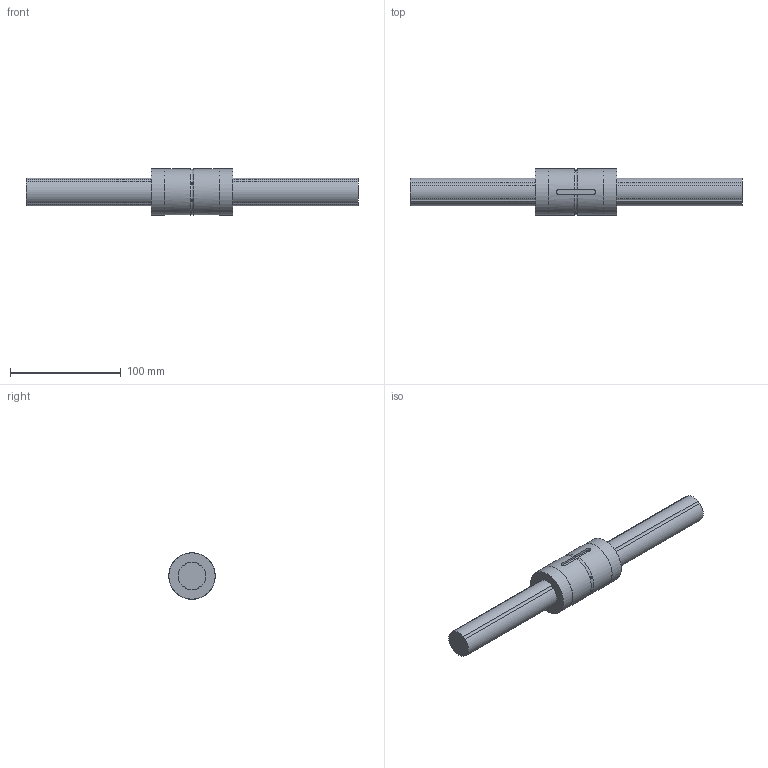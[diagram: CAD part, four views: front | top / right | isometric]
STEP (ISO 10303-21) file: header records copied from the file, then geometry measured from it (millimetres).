
FILE_DESCRIPTION((''),'2;1');
FILE_NAME('C:\Documents and Settings\土屋\My Documents\土屋移動用フォルダ\製品 (図面)\カタログ用3D\ボールスプライン\BSP\BSP25.stp','2015-02-23T13:28:16',('y'),(''),'Autodesk Inventor 11','Autodesk Inventor 11','');
FILE_SCHEMA(('AUTOMOTIVE_DESIGN { 1 0 10303 214 1 1 1 1 }'));
Length unit declared in the file: millimetre
Products named in the file (3): BSP25; BSP25軸; BSP25ナット
Assembly tree (2 placements, depth 2):
  BSP25
    BSP25軸
    BSP25ナット
Bounding box: 300 x 42 x 42 mm (x, y, z)
Volume: 211239.4 mm3; surface area: 42853.9 mm2
Topology: 2 solids, 2 shells, 40 faces, 94 edges, 64 vertices
Faces by surface type: cylinder 24, plane 11, bspline 5
Full cylindrical faces by diameter (mm): 2 x2, 41.8 x2, 42 x2
Entity records: 1526 total; most frequent: CARTESIAN_POINT 571, DIRECTION 198, ORIENTED_EDGE 164, AXIS2_PLACEMENT_3D 86, EDGE_CURVE 82, VERTEX_POINT 60, EDGE_LOOP 56, CIRCLE 46
